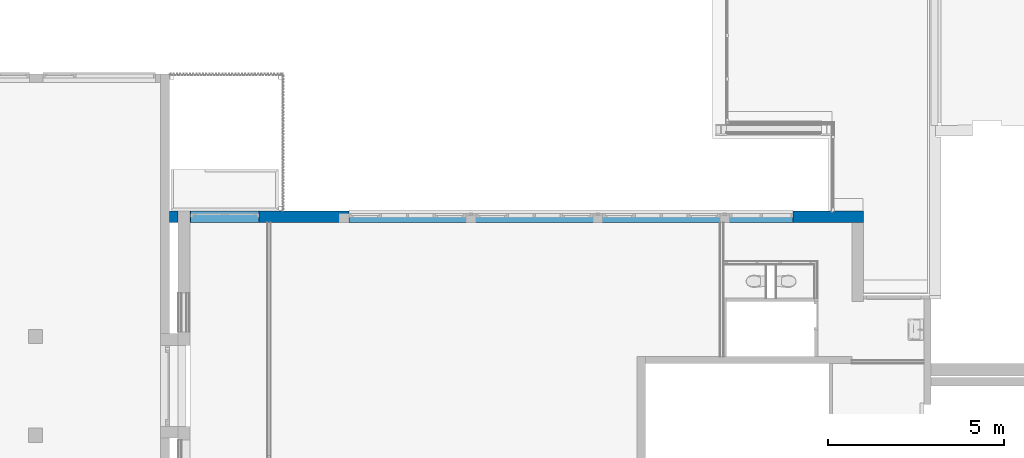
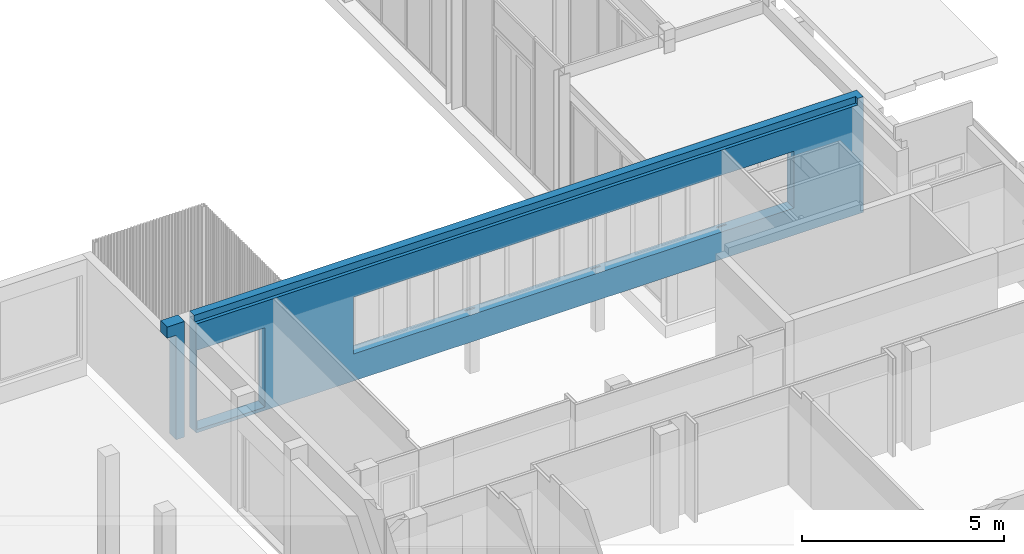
# One storey, part 39 of 99: 1 wall, 5 openings.
"""IFC2X3 building model written with IfcOpenShell, lengths in millimetres."""

from ifc_helpers import new_model, entity, si_unit, converted_unit, derived_unit, money_unit, direction, frame, origin_with_axes, place, context, subcontext, project, spatial, faceted_brep, material, type_object, element, save


model = new_model("IFC2X3")

# Units and contexts
model_context = context("Model", 3, precision=0.01, world=origin_with_axes(), true_north=direction((0.0, 1.0)))
body_context = subcontext(model_context, "Body", "Model", "MODEL_VIEW")
ifc_project = project(units=[si_unit("LENGTHUNIT", "METRE", prefix="MILLI"), si_unit("AREAUNIT", "SQUARE_METRE"), si_unit("VOLUMEUNIT", "CUBIC_METRE"), converted_unit("PLANEANGLEUNIT", "DEGREE", entity("IfcPlaneAngleMeasure", 0.0174532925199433), si_unit("PLANEANGLEUNIT", "RADIAN"), dimensions=[0, 0, 0, 0, 0, 0, 0]), money_unit("EUR"), converted_unit("TIMEUNIT", "Year", entity("IfcTimeMeasure", 31557600.0), si_unit("TIMEUNIT", "SECOND"), dimensions=[0, 0, 1, 0, 0, 0, 0]), si_unit("MASSUNIT", "GRAM", prefix="KILO"), si_unit("THERMODYNAMICTEMPERATUREUNIT", "DEGREE_CELSIUS"), si_unit("LUMINOUSINTENSITYUNIT", "LUMEN"), si_unit("ENERGYUNIT", "JOULE", prefix="MEGA"), derived_unit("THERMALCONDUCTANCEUNIT", [(si_unit("POWERUNIT", "WATT"), 1), (si_unit("LENGTHUNIT", "METRE"), -1), (si_unit("THERMODYNAMICTEMPERATUREUNIT", "KELVIN"), -1)]), derived_unit("SPECIFICHEATCAPACITYUNIT", [(si_unit("ENERGYUNIT", "JOULE"), 1), (si_unit("MASSUNIT", "GRAM", prefix="KILO"), -1), (si_unit("THERMODYNAMICTEMPERATUREUNIT", "KELVIN"), -1)]), derived_unit("MASSDENSITYUNIT", [(si_unit("MASSUNIT", "GRAM", prefix="KILO"), 1), (si_unit("VOLUMEUNIT", "CUBIC_METRE"), -1)])], contexts=[model_context])

# Site, building, storey
site_placement = place(None, origin_with_axes())
site = spatial("IfcSite", under=ifc_project, at=site_placement, Name="Site", CompositionType="ELEMENT")
building_placement = place(site_placement, origin_with_axes())
building = spatial("IfcBuilding", under=site, at=building_placement, Name="Naam gebouw", CompositionType="ELEMENT")
storey_placement = place(building_placement, frame((0.0, 0.0, 7650.0), z_axis=(0.0, 0.0, 1.0), x_axis=(1.0, 0.0, 0.0)))
storey = spatial("IfcBuildingStorey", under=building, at=storey_placement, Name="2e verdieping N", CompositionType="ELEMENT", Elevation=7650.0)

# Wall, openings
ifc_material = material(Name="ALG - CONSTRUCTIEF")
wall_type = type_object("IfcWallType", Name="ALG - CONSTRUCTIEF 330", PredefinedType="NOTDEFINED")
wall_placement = place(storey_placement, frame((17999.99977997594, 19995.91242510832, -99.99999999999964), z_axis=(0.0, 0.0, 1.0), x_axis=(-0.9999999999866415, -5.168867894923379e-06, 0.0)))
wall = element("IfcWall", 1, at=wall_placement, inside=storey, type_object=wall_type, material=ifc_material, Name="_Wand-x", context=body_context, shape_type="Brep", body=[
    faceted_brep([(18770.07417970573, 0.0, 3299.999999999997), (18770.07417970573, 0.0, 0.0), (-330.0000000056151, 0.0, 0.0), (-330.0000000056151, 0.0, 3500.0), (-164.4085584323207, 0.0, 3500.0), (-164.4085584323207, 0.0, 3299.999999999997), (1662.499780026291, 0.0, 2540.000000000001), (1662.499780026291, 0.0, 820.0000000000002), (14262.49978011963, 0.0, 820.0000000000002), (14262.49978011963, 0.0, 2540.000000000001), (18749.86713838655, 0.0, 99.99999999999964), (18749.86713838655, 0.0, 2500.0), (16803.08834875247, 0.0, 2500.0), (16803.08834875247, 0.0, 99.99999999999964), (18770.07417970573, -100.0970200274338, 3299.999999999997), (18770.07417970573, -100.0970200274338, 3500.0), (18770.07417970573, -330.0000000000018, 3500.0), (18770.07417970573, -329.9999999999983, 0.0), (857.9980741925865, -329.9999999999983, 0.0), (857.9981518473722, -314.976408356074, 0.0), (557.998151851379, -314.9748576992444, 0.0), (557.9980741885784, -329.9999999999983, 0.0), (-330.0019257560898, -330.0000000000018, 0.0), (-330.0019257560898, -330.0000000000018, 3500.0), (-164.4090753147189, -99.99915018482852, 3500.0), (-164.4090753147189, -99.99915018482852, 3299.999999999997), (1662.498815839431, -255.0007919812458, 838.5143329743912), (1662.498815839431, -255.0007919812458, 848.514332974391), (1662.498825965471, -253.0007919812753, 848.514332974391), (1662.498825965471, -253.0007919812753, 836.8361337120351), (1662.499780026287, -260.0000000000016, 835.601984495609), (1662.499780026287, -330.0000000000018, 823.2590958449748), (1662.499780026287, -330.0000000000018, 820.0000000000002), (1662.499780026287, -330.0000000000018, 2540.000000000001), (1662.499780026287, -330.0000000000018, 825.2899490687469), (14262.49978011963, -330.0000000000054, 820.0000000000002), (3462.499780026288, -260.0000000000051, 820.0000000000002), (3462.498663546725, -215.9999999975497, 819.9999999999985), (3737.498663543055, -216.0014214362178, 820.0000000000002), (3737.498436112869, -260.0000000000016, 820.0000000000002), (7337.499780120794, -260.0000000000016, 820.0000000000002), (7062.499780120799, -260.0000000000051, 820.0000000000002), (7062.499780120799, -215.9985785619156, 820.0000000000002), (7337.500007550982, -216.0000000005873, 820.0000000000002), (10937.49843620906, -260.0000000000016, 820.0000000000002), (10662.49978011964, -260.0000000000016, 820.0000000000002), (10662.49866364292, -215.9999998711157, 820.0000000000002), (10937.49866363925, -216.0014213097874, 819.9999999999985), (14262.49882574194, -253.0645860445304, 836.8361337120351), (14262.49882574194, -253.0645860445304, 848.514332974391), (14262.4988156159, -255.0645860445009, 848.514332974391), (14262.4988156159, -255.0645860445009, 838.5143329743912), (14262.49978011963, -330.0000000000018, 825.3011976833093), (14262.49978011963, -330.0000000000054, 2540.000000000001), (14262.49978011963, -330.0000000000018, 823.2703444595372), (14262.49978011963, -260.0000000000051, 835.6132331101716), (3462.498663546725, -215.9999999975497, 2540.000000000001), (3462.499780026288, -260.0000000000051, 2540.000000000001), (3737.498436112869, -260.0000000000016, 2540.000000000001), (3737.498663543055, -216.0014214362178, 2540.000000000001), (7062.499780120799, -260.0000000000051, 2540.000000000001), (7337.499780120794, -260.0000000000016, 2540.000000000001), (7337.500007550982, -216.0000000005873, 2540.000000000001), (7062.499780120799, -215.9985785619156, 2540.000000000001), (10662.49866364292, -215.9999998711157, 2540.000000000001), (10662.49978011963, -260.0000000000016, 2540.000000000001), (10937.49843620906, -260.0000000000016, 2540.000000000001), (10937.49866363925, -216.0014213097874, 2540.000000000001), (18749.86713838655, -329.9999999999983, 99.99999999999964), (18749.86713838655, -330.0000000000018, 2500.0), (16803.08834875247, -330.0000000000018, 2500.0), (16803.08834875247, -329.9999999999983, 99.99999999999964), (713.4980741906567, -329.9999999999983, 45.99999999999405), (717.1153882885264, -330.0000000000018, 32.49999999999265), (726.9980741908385, -329.9999999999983, 22.61731409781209), (740.4980741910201, -329.9999999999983, 18.99999999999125), (857.9980741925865, -329.9999999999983, 18.99999999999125), (557.9980741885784, -329.9999999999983, 18.99999999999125), (675.4980741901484, -329.9999999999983, 18.99999999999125), (688.99807419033, -329.9999999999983, 22.61731409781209), (698.880760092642, -330.0000000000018, 32.49999999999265), (702.4980741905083, -329.9999999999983, 45.99999999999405), (702.4980741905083, -329.9999999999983, 253.9999999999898), (698.880760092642, -330.0000000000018, 267.4999999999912), (688.99807419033, -329.9999999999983, 277.3826859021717), (675.4980741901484, -329.9999999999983, 280.9999999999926), (557.9980741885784, -329.9999999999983, 280.9999999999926), (557.9980741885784, -329.9999999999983, 299.9999999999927), (857.9980741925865, -329.9999999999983, 299.9999999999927), (857.9980741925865, -329.9999999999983, 280.9999999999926), (740.4980741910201, -329.9999999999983, 280.9999999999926), (726.9980741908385, -329.9999999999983, 277.3826859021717), (717.1153882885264, -330.0000000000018, 267.4999999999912), (713.4980741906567, -329.9999999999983, 253.9999999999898), (857.9981518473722, -314.976408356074, 18.99999999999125), (740.4981518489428, -314.9758010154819, 18.99999999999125), (726.9981518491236, -314.9757312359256, 22.61731409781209), (717.1154659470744, -314.9756801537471, 32.49999999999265), (713.4981518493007, -314.9756614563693, 45.99999999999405), (713.4981518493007, -314.9756614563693, 253.9999999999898), (717.1154659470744, -314.9756801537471, 267.4999999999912), (726.9981518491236, -314.9757312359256, 277.3826859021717), (740.4981518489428, -314.9758010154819, 280.9999999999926), (857.9981518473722, -314.976408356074, 280.9999999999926), (857.9981518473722, -314.976408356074, 299.9999999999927), (557.998151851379, -314.9748576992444, 299.9999999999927), (557.998151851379, -314.9748576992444, 280.9999999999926), (675.4981518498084, -314.9754650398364, 280.9999999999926), (688.9981518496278, -314.9755348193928, 277.3826859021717), (698.8808377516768, -314.9755859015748, 267.4999999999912), (702.4981518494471, -314.9756045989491, 253.9999999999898), (702.4981518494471, -314.9756045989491, 45.99999999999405), (698.8808377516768, -314.9755859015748, 32.49999999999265), (688.9981518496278, -314.9755348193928, 22.61731409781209), (675.4981518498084, -314.9754650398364, 18.99999999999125), (557.998151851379, -314.9748576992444, 18.99999999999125)], [[[0, 1, 2, 3, 4, 5], [6, 7, 8, 9], [10, 11, 12, 13]], [[1, 0, 14, 15, 16, 17]], [[18, 19, 20, 21, 22, 2, 1, 17]], [[22, 23, 3, 2]], [[16, 15, 24, 4, 3, 23]], [[25, 5, 4, 24]], [[5, 25, 14, 0]], [[26, 27, 28, 29, 30, 31, 32, 7, 6, 33, 34]], [[32, 35, 8, 7], [36, 37, 38, 39], [40, 41, 42, 43], [44, 45, 46, 47]], [[48, 49, 50, 51, 52, 53, 9, 8, 35, 54, 55]], [[33, 6, 9, 53], [56, 57, 58, 59], [60, 61, 62, 63], [64, 65, 66, 67]], [[11, 10, 68, 69]], [[70, 12, 11, 69]], [[71, 13, 12, 70]], [[10, 13, 71, 68]], [[25, 24, 15, 14]], [[72, 73, 74, 75, 76, 18, 17, 16, 23, 22, 21, 77, 78, 79, 80, 81, 82, 83, 84, 85, 86, 87, 88, 89, 90, 91, 92, 93], [31, 34, 33, 53, 52, 54, 35, 32], [71, 70, 69, 68]], [[94, 19, 18, 76]], [[19, 94, 95, 96, 97, 98, 99, 100, 101, 102, 103, 104, 105, 106, 107, 108, 109, 110, 111, 112, 113, 114, 115, 20]], [[77, 21, 20, 115]], [[30, 29, 28, 27, 26, 34, 31]], [[37, 36, 39, 38]], [[41, 40, 43, 42]], [[45, 44, 47, 46]], [[55, 54, 52, 51, 50, 49, 48]], [[57, 56, 59, 58]], [[61, 60, 63, 62]], [[65, 64, 67, 66]], [[73, 72, 98, 97]], [[74, 73, 97, 96]], [[75, 74, 96, 95]], [[95, 94, 76, 75]], [[114, 78, 77, 115]], [[79, 78, 114, 113]], [[112, 80, 79, 113]], [[112, 111, 81, 80]], [[111, 110, 82, 81]], [[110, 109, 83, 82]], [[108, 84, 83, 109]], [[84, 108, 107, 85]], [[86, 85, 107, 106]], [[87, 86, 106, 105]], [[87, 105, 104, 88]], [[89, 88, 104, 103]], [[102, 90, 89, 103]], [[90, 102, 101, 91]], [[100, 92, 91, 101]], [[99, 93, 92, 100]], [[72, 93, 99, 98]]]),
    faceted_brep([(19100.07417970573, -330.0000000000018, 3500.0), (19100.07417970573, -329.9999999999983, 0.0), (19349.9980745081, -330.0000000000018, 0.0), (19349.9980745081, -330.0000000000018, 3160.0), (19599.99807451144, -329.9999999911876, 3160.0), (19599.9997802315, -330.0000000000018, 3500.0), (19100.07417970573, 0.0, 3500.0), (19100.07417970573, 0.0, 0.0), (19349.9997802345, 0.0, 0.0), (19349.9997802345, 0.0, 3160.0), (19599.99978023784, 0.0, 3160.0), (19599.9997802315, 0.0, 3500.0)], [[[0, 1, 2, 3, 4, 5]], [[0, 6, 7, 1]], [[2, 1, 7, 8]], [[2, 8, 9, 3]], [[3, 9, 10, 4]], [[10, 11, 5, 4]], [[5, 11, 6, 0]], [[6, 11, 10, 9, 8, 7]]]),
])
opening_1_placement = place(wall_placement, frame((2562.499780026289, 0.0, 820.0000000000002), z_axis=(0.0, 0.0, 1.0), x_axis=(1.0, 0.0, 0.0)))
element("IfcOpeningElement", 2, at=opening_1_placement, cuts=wall, Name="_Merk-049", context=body_context, shape_type="Brep", body=[
    faceted_brep([(899.9999999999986, -260.0000000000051, 0.0), (899.9999999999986, -260.0000000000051, 1720.000000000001), (899.9999999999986, -331.1013098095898, 1720.000000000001), (899.9999999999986, -331.1013098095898, 0.0), (899.9999999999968, 1.101309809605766, 0.0), (899.9999999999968, 1.101309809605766, 1720.000000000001), (-900.0000000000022, -260.0000000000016, 1720.000000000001), (-900.0000000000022, -331.1013098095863, 1720.000000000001), (-899.9999999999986, 1.101309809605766, 1720.000000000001), (-900.0000000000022, -331.1013098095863, 0.0), (-900.0000000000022, -260.0000000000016, 0.0), (-899.9999999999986, 1.101309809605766, 0.0)], [[[0, 1, 2, 3]], [[1, 0, 4, 5]], [[6, 7, 2, 1, 5, 8]], [[7, 9, 3, 2]], [[0, 3, 9, 10, 11, 4]], [[5, 4, 11, 8]], [[6, 10, 9, 7]], [[10, 6, 8, 11]]]),
])
opening_2_placement = place(wall_placement, frame((12599.99978011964, 0.0, 820.0000000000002), z_axis=(0.0, 0.0, 1.0), x_axis=(1.0, 0.0, 0.0)))
element("IfcOpeningElement", 3, at=opening_2_placement, cuts=wall, Name="_Merk-048", context=body_context, shape_type="Brep", body=[
    faceted_brep([(1662.499999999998, -260.0000000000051, 0.0), (1662.499999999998, -260.0000000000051, 1720.000000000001), (1662.499999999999, -331.1013098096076, 1720.000000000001), (1662.499999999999, -331.1013098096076, 0.0), (1662.499999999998, 1.101309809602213, 0.0), (1662.499999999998, 1.101309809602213, 1720.000000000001), (-1937.500000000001, -260.0000000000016, 1720.000000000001), (-1937.500000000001, -331.1013098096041, 1720.000000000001), (-1937.500000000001, 1.101309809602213, 1720.000000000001), (-1937.500000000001, -331.1013098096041, 0.0), (-1937.500000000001, -260.0000000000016, 0.0), (-1937.500000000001, 1.101309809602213, 0.0)], [[[0, 1, 2, 3]], [[1, 0, 4, 5]], [[6, 7, 2, 1, 5, 8]], [[7, 9, 3, 2]], [[0, 3, 9, 10, 11, 4]], [[5, 4, 11, 8]], [[6, 10, 9, 7]], [[10, 6, 8, 11]]]),
])
opening_3_placement = place(wall_placement, frame((5399.999108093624, 0.0, 820.0000000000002), z_axis=(0.0, 0.0, 1.0), x_axis=(1.0, 0.0, 0.0)))
element("IfcOpeningElement", 4, at=opening_3_placement, cuts=wall, Name="_Merk-048", context=body_context, shape_type="Brep", body=[
    faceted_brep([(1937.499328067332, -260.0000000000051, 0.0), (1937.499328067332, -260.0000000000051, 1720.000000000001), (1937.499328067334, -331.1013098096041, 1720.000000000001), (1937.499328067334, -331.1013098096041, 0.0), (1937.499328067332, 1.101309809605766, 0.0), (1937.499328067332, 1.101309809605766, 1720.000000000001), (-1937.499328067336, -260.0000000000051, 1720.000000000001), (-1937.499328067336, -331.1013098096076, 1720.000000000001), (-1937.499328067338, 1.101309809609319, 1720.000000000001), (-1937.499328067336, -331.1013098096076, 0.0), (-1937.499328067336, -260.0000000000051, 0.0), (-1937.499328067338, 1.101309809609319, 0.0)], [[[0, 1, 2, 3]], [[1, 0, 4, 5]], [[6, 7, 2, 1, 5, 8]], [[7, 9, 3, 2]], [[0, 3, 9, 10, 11, 4]], [[5, 4, 11, 8]], [[6, 10, 9, 7]], [[10, 6, 8, 11]]]),
])
opening_4_placement = place(wall_placement, frame((17776.47774356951, 0.0, 99.99999999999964), z_axis=(0.0, 0.0, 1.0), x_axis=(1.0, 0.0, 0.0)))
element("IfcOpeningElement", 5, at=opening_4_placement, cuts=wall, Name="_Merk-047", context=body_context, shape_type="Brep", body=[
    faceted_brep([(973.3893948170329, -259.999999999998, 0.0), (973.3893948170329, -259.999999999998, 2400.0), (973.3893948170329, -331.1013098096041, 2400.0), (973.3893948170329, -331.1013098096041, 0.0), (973.3893948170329, 1.101309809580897, 0.0), (973.3893948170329, 1.101309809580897, 2400.0), (-973.3893948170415, -259.999999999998, 2400.0), (-973.3893948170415, -331.1013098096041, 2400.0), (-973.3893948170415, 1.10130980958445, 2400.0), (-973.3893948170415, -331.1013098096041, 0.0), (-973.3893948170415, -259.999999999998, 0.0), (-973.3893948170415, 1.10130980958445, 0.0)], [[[0, 1, 2, 3]], [[1, 0, 4, 5]], [[6, 7, 2, 1, 5, 8]], [[7, 9, 3, 2]], [[0, 3, 9, 10, 11, 4]], [[5, 4, 11, 8]], [[6, 10, 9, 7]], [[10, 6, 8, 11]]]),
])
opening_5_placement = place(wall_placement, frame((8999.999780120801, 0.0, 820.0000000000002), z_axis=(0.0, 0.0, 1.0), x_axis=(1.0, 0.0, 0.0)))
element("IfcOpeningElement", 6, at=opening_5_placement, cuts=wall, Name="_Merk-048", context=body_context, shape_type="Brep", body=[
    faceted_brep([(1937.499999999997, -260.0000000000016, 0.0), (1937.499999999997, -260.0000000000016, 1720.000000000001), (1937.499999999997, -331.1013098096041, 1720.000000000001), (1937.499999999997, -331.1013098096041, 0.0), (1937.499999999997, 1.101309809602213, 0.0), (1937.499999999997, 1.101309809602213, 1720.000000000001), (-1937.500000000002, -260.0000000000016, 1720.000000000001), (-1937.5, -331.1013098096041, 1720.000000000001), (-1937.500000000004, 1.101309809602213, 1720.000000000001), (-1937.5, -331.1013098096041, 0.0), (-1937.500000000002, -260.0000000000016, 0.0), (-1937.500000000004, 1.101309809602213, 0.0)], [[[0, 1, 2, 3]], [[1, 0, 4, 5]], [[6, 7, 2, 1, 5, 8]], [[7, 9, 3, 2]], [[0, 3, 9, 10, 11, 4]], [[5, 4, 11, 8]], [[6, 10, 9, 7]], [[10, 6, 8, 11]]]),
])

save(model, "model.ifc")
